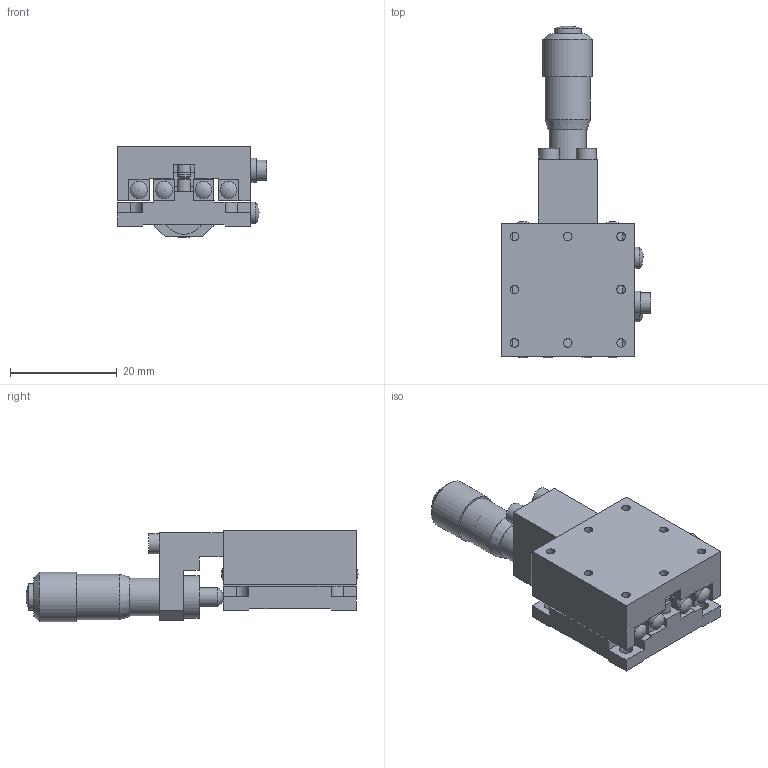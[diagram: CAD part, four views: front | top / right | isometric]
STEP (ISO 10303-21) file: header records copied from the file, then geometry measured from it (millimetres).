
FILE_DESCRIPTION( ( 'STEP AP203' ), '1' );
FILE_NAME( 'C:/3D-Trans/3D_B11-25ANZ+090217.step', '2009-02-17T08:58:02', ( ' ' ), ( ' ' ), 'XStep 1.0', ' ', ' ' );
FILE_SCHEMA( ( 'CONFIG_CONTROL_DESIGN' ) );
Length unit declared in the file: millimetre
Products named in the file (3): 1; 2; 3
Bounding box: 28.1 x 62.3 x 17.15 mm (x, y, z)
Volume: 10666.3 mm3; surface area: 7658.2 mm2
Topology: 3 solids, 3 shells, 207 faces, 545 edges, 361 vertices
Faces by surface type: plane 123, cylinder 57, cone 15, sphere 12
Full cylindrical faces by diameter (mm): 1.6 x14, 2 x1, 2.5 x8, 3.2 x8, 3.5 x2, 3.8 x3, 4 x2, 4.5 x2, 5 x1, 5.5 x1, 7 x1, 8 x1, 8.1 x1, 8.5 x1, 9.3 x1
Entity records: 5755 total; most frequent: CARTESIAN_POINT 1006, DIRECTION 957, ORIENTED_EDGE 844, EDGE_CURVE 422, AXIS2_PLACEMENT_3D 331, EDGE_LOOP 308, VERTEX_POINT 308, LINE 295
